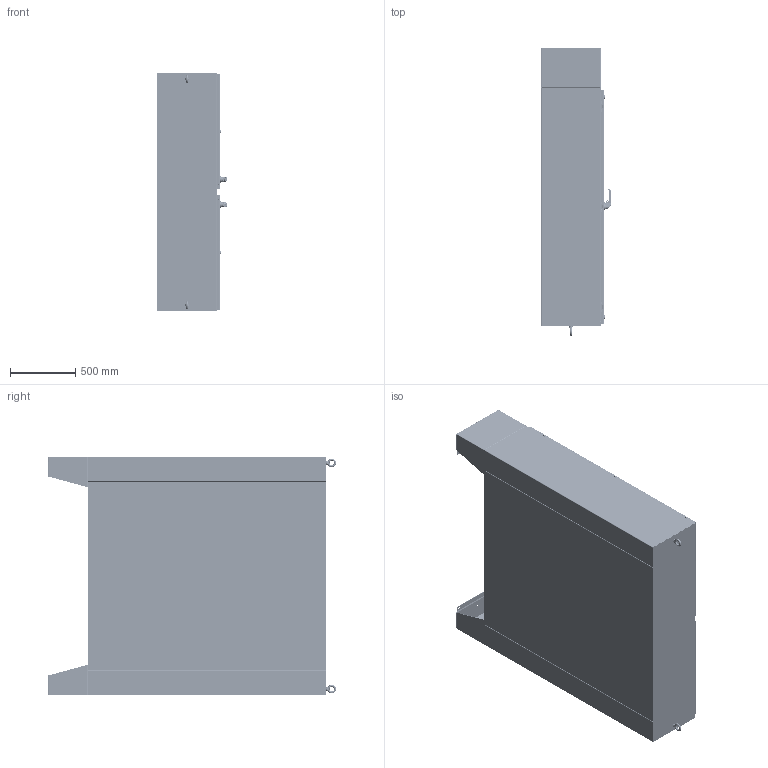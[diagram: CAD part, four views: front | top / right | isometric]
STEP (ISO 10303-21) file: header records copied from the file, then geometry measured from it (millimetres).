
FILE_DESCRIPTION((''),'2;1');
FILE_NAME('MODEL-148_ASM','2025-04-03T16:04:13',('andrew.knowlton'),('SAGINAW CONTROL & ENGINEERING'),'CREO PARAMETRIC BY PTC INC, 2021284','CREO PARAMETRIC BY PTC INC, 2021284','');
FILE_SCHEMA(('AUTOMOTIVE_DESIGN { 1 0 10303 214 1 1 1 1 }'));
Length unit declared in the file: inch
Products named in the file (94): MODEL-148-BTM; MODEL-148-RS; MODEL-148-LS; MODEL-148-TP; MODEL-148-BCK; MODEL-148-RH-DR; 100837; 111267; 100882; 100955_SCREW_MTG; 100955_PADLOCK_CATCH; 100955_SCREW_LARGE; 100955_INSERT_SHAFT; 100955_INSERT_PKH; 100955_GASKET; 100955_O-RING; 100955_BASE; 100955_SPRING; 100955_HANDLE; 100955_CAM_SHAFT; 100955_HANDLE_ASM; 100955_CAM_ADAPTER; 100955_EARTH_NUT; 100955_FLANGE_NUT; 100955_CAM_NUT; 100955_KEY_INSERT; 100955_SPRING_CAM; 100955_TORSION_SPRING; 100955_SCREW_INSERT; 100955_ASM; 102236; 100030; 102236_ASM; MODEL-148-ROD-UPR-RH; 128146; 128145; 128144; 102482; MODEL-148-ROD-UPR-RH_ASM; 128143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
Assembly tree (211 placements, depth 5):
  MODEL-148_ASM
    MODEL-148-BTM
    MODEL-148-RS
    MODEL-148-LS
    MODEL-148-TP
    MODEL-148-BCK
    MODEL-148-RH-DOOR-ASSY_ASM
      MODEL-148-RH-DR
      100837  x5
      111267
      100882  x10
      100955_ASM
        100955_SCREW_MTG
        100955_PADLOCK_CATCH
        100955_SCREW_LARGE  x2
        100955_INSERT_SHAFT
        100955_INSERT_PKH
        100955_GASKET
        100955_O-RING
        100955_BASE
        100955_SPRING
        100955_HANDLE_ASM
          100955_HANDLE
          100955_CAM_SHAFT
        100955_CAM_ADAPTER
        100955_EARTH_NUT
        100955_FLANGE_NUT
        100955_CAM_NUT
        100955_KEY_INSERT
        100955_SPRING_CAM
        100955_TORSION_SPRING
        100955_SCREW_INSERT
      102236_ASM
        102236
        100030  x2
      MODEL-148-ROD-UPR-RH_ASM
        MODEL-148-ROD-UPR-RH
        128146
        128145
        128144
        102482  x2
      128143  x2
      112504  x2
      MODEL-148-ROD-LWR-RH_ASM
        MODEL-148-ROD-LWR-RH
        128146
        128145
        128144
        102482  x2
      MODEL-148-PR-GSKT-RH
      113885_ASM  x2
        113885_SHAFT
        113885_INSERT
        113885_CAM_30MM
        113885_NUT
        113885_SCREW
      128257_ASM  x3
        128257
      126393  x3
      102483  x3
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Bounding box: 535.45 x 2208.4 x 1828.8 mm (x, y, z)
Volume: 43446788 mm3; surface area: 31157811.9 mm2
Topology: 262 solids, 262 shells, 24674 faces, 62502 edges, 38416 vertices
Faces by surface type: plane 8945, cylinder 6545, bspline 5200, torus 1810, cone 1406, sphere 652, extrusion 116
Entity records: 461522 total; most frequent: CARTESIAN_POINT 173549, ORIENTED_EDGE 42958, DIRECTION 39884, PRESENTATION_STYLE_ASSIGNMENT 22666, STYLED_ITEM 22386, EDGE_CURVE 21479, CURVE_STYLE 21269, AXIS2_PLACEMENT_3D 14711
